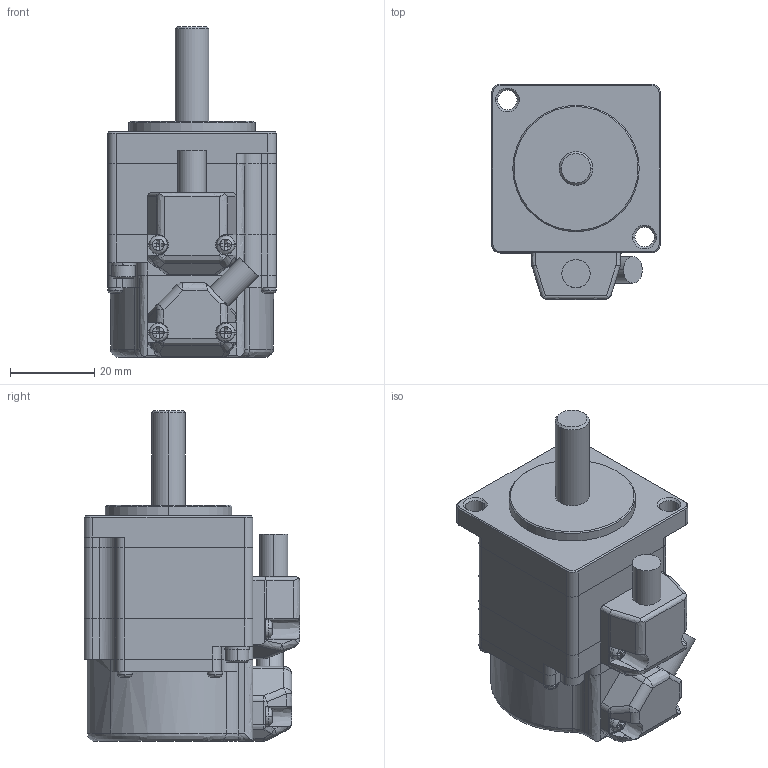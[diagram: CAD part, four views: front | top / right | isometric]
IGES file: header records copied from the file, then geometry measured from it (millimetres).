
Start section: Elysium IGES Interface
Global section: file name: 79H\\nas63\design\04MC研\saka\3DCAD\TBL-i2カタログまとめ\PKGデータ\TS4601_BK無.igs; native system: Creo Elements/Direct Modeling 17.0F  20-Aug-2012; preprocessor: Creo Element/Direct IGES_3D V2.2; author: Unknown; organization: Unknown; date: 20161222.135907; units: millimetre
Bounding box: 40 x 51.1 x 78.5 mm (x, y, z)
Volume: 84556.5 mm3; surface area: 13692.9 mm2
Topology: 1 solids, 1 shells, 562 faces, 1297 edges, 732 vertices
Faces by surface type: bspline 562
